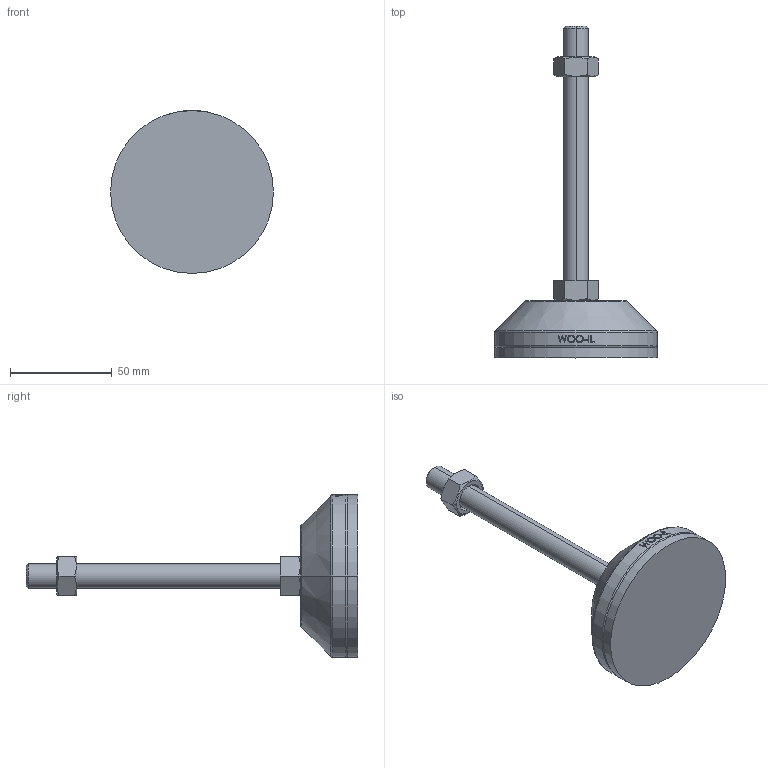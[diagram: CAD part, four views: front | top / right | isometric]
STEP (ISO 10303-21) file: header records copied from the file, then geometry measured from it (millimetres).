
FILE_DESCRIPTION (( 'STEP AP214' ), '1' );
FILE_NAME ('NHNR80-M12-125.step', '2021-01-25T06:20:58', ( '' ), ( '' ), 'SwSTEP 2.0', 'SolidWorks 2019', '' );
FILE_SCHEMA (( 'AUTOMOTIVE_DESIGN' ));
Length unit declared in the file: millimetre
Products named in the file (2): NHNR80-M12-125
Bounding box: 80 x 163 x 80 mm (x, y, z)
Volume: 134399.3 mm3; surface area: 32101.8 mm2
Topology: 4 solids, 4 shells, 105 faces, 239 edges, 152 vertices
Faces by surface type: plane 49, cylinder 18, bspline 16, cone 14, torus 8
Entity records: 4363 total; most frequent: CARTESIAN_POINT 2046, ORIENTED_EDGE 478, DIRECTION 429, EDGE_CURVE 239, AXIS2_PLACEMENT_3D 165, VERTEX_POINT 152, EDGE_LOOP 117, FACE_OUTER_BOUND 105
